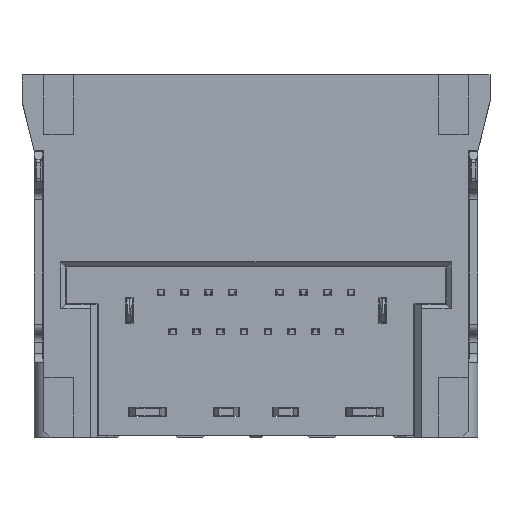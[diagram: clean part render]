
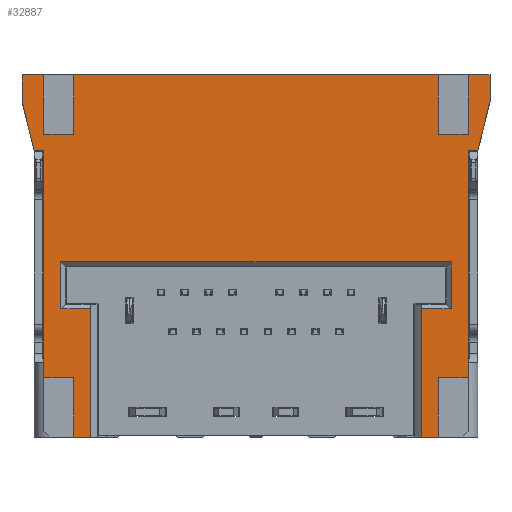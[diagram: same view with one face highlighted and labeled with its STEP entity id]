
A CAD part, left-side view. The second image highlights one B-rep face of the part: STEP entity #32887.
In plain terms, the highlighted planar face has unit normal (-1, 0, 0).
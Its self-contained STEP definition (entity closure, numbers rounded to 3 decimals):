
#22851=CARTESIAN_POINT('',(-9.545,-6.145,-0.9));
#22852=VERTEX_POINT('',#22851);
#22859=CARTESIAN_POINT('',(-9.545,-5.58,-0.9));
#22860=VERTEX_POINT('',#22859);
#22861=CARTESIAN_POINT('',(-9.545,-5.58,-0.9));
#22862=DIRECTION('',(0.0,-1.0,0.0));
#22863=VECTOR('',#22862,1.0);
#22864=LINE('',#22861,#22863);
#22865=EDGE_CURVE('no 34117',#22860,#22852,#22864,.T.);
#23205=CARTESIAN_POINT('',(-9.545,7.88,11.3));
#23206=VERTEX_POINT('',#23205);
#23213=CARTESIAN_POINT('',(-9.545,7.145,11.3));
#23214=VERTEX_POINT('',#23213);
#23215=CARTESIAN_POINT('',(-9.545,7.145,11.3));
#23216=DIRECTION('',(0.0,1.0,0.0));
#23217=VECTOR('',#23216,1.0);
#23218=LINE('',#23215,#23217);
#23219=EDGE_CURVE('no 63947',#23214,#23206,#23218,.T.);
#23237=CARTESIAN_POINT('',(-9.545,6.145,11.3));
#23238=VERTEX_POINT('',#23237);
#23245=CARTESIAN_POINT('',(-9.545,-6.145,11.3));
#23246=VERTEX_POINT('',#23245);
#23247=CARTESIAN_POINT('',(-9.545,-6.145,11.3));
#23248=DIRECTION('',(0.0,1.0,0.0));
#23249=VECTOR('',#23248,1.0);
#23250=LINE('',#23247,#23249);
#23251=EDGE_CURVE('no 35234',#23246,#23238,#23250,.T.);
#23269=CARTESIAN_POINT('',(-9.545,-7.145,11.3));
#23270=VERTEX_POINT('',#23269);
#23277=CARTESIAN_POINT('',(-9.545,-7.88,11.3));
#23278=VERTEX_POINT('',#23277);
#23279=CARTESIAN_POINT('',(-9.545,-7.88,11.3));
#23280=DIRECTION('',(0.0,1.0,0.0));
#23281=VECTOR('',#23280,1.0);
#23282=LINE('',#23279,#23281);
#23283=EDGE_CURVE('no 93567',#23278,#23270,#23282,.T.);
#23945=CARTESIAN_POINT('',(-9.545,5.58,-0.9));
#23946=VERTEX_POINT('',#23945);
#23953=CARTESIAN_POINT('',(-9.545,6.145,-0.9));
#23954=VERTEX_POINT('',#23953);
#23955=CARTESIAN_POINT('',(-9.545,6.145,-0.9));
#23956=DIRECTION('',(0.0,-1.0,0.0));
#23957=VECTOR('',#23956,1.0);
#23958=LINE('',#23955,#23957);
#23959=EDGE_CURVE('no 90424',#23954,#23946,#23958,.T.);
#32670=CARTESIAN_POINT('',(-9.545,-6.145,1.1));
#32671=VERTEX_POINT('',#32670);
#32678=CARTESIAN_POINT('',(-9.545,-6.145,-0.9));
#32679=DIRECTION('',(0.0,0.0,1.0));
#32680=VECTOR('',#32679,1.0);
#32681=LINE('',#32678,#32680);
#32682=EDGE_CURVE('no 48562',#22852,#32671,#32681,.T.);
#32692=CARTESIAN_POINT('',(-9.545,7.88,10.4));
#32693=VERTEX_POINT('',#32692);
#32694=CARTESIAN_POINT('',(-9.545,7.475,8.75));
#32695=VERTEX_POINT('',#32694);
#32696=CARTESIAN_POINT('',(-9.545,7.88,10.4));
#32697=DIRECTION('',(0.0,-0.238,-0.971));
#32698=VECTOR('',#32697,1.0);
#32699=LINE('',#32696,#32698);
#32700=EDGE_CURVE('no 98376',#32693,#32695,#32699,.T.);
#32701=ORIENTED_EDGE('no 76742',*,*,#32700,.T.);
#32702=CARTESIAN_POINT('',(-9.545,7.145,8.75));
#32703=VERTEX_POINT('',#32702);
#32704=CARTESIAN_POINT('',(-9.545,7.475,8.75));
#32705=DIRECTION('',(0.0,-1.0,0.));
#32706=VECTOR('',#32705,1.0);
#32707=LINE('',#32704,#32706);
#32708=EDGE_CURVE('no 49049',#32695,#32703,#32707,.T.);
#32709=ORIENTED_EDGE('no 17575',*,*,#32708,.T.);
#32710=CARTESIAN_POINT('',(-9.545,7.145,1.1));
#32711=VERTEX_POINT('',#32710);
#32712=CARTESIAN_POINT('',(-9.545,7.145,1.1));
#32713=DIRECTION('',(0.0,0.0,1.0));
#32714=VECTOR('',#32713,1.0);
#32715=LINE('',#32712,#32714);
#32716=EDGE_CURVE('no 70815',#32711,#32703,#32715,.T.);
#32717=ORIENTED_EDGE('no 97596',*,*,#32716,.F.);
#32718=CARTESIAN_POINT('',(-9.545,6.145,1.1));
#32719=VERTEX_POINT('',#32718);
#32720=CARTESIAN_POINT('',(-9.545,6.145,1.1));
#32721=DIRECTION('',(0.0,1.0,0.0));
#32722=VECTOR('',#32721,1.0);
#32723=LINE('',#32720,#32722);
#32724=EDGE_CURVE('no 50742',#32719,#32711,#32723,.T.);
#32725=ORIENTED_EDGE('no 36201',*,*,#32724,.F.);
#32726=CARTESIAN_POINT('',(-9.545,6.145,-0.9));
#32727=DIRECTION('',(0.0,0.0,1.0));
#32728=VECTOR('',#32727,1.0);
#32729=LINE('',#32726,#32728);
#32730=EDGE_CURVE('no 48416',#23954,#32719,#32729,.T.);
#32731=ORIENTED_EDGE('no 93547',*,*,#32730,.F.);
#32732=ORIENTED_EDGE('no 89039',*,*,#23959,.T.);
#32733=CARTESIAN_POINT('',(-9.545,5.58,3.43));
#32734=VERTEX_POINT('',#32733);
#32735=CARTESIAN_POINT('',(-9.545,5.58,3.43));
#32736=DIRECTION('',(0.0,0.0,-1.0));
#32737=VECTOR('',#32736,1.0);
#32738=LINE('',#32735,#32737);
#32739=EDGE_CURVE('no 37834',#32734,#23946,#32738,.T.);
#32740=ORIENTED_EDGE('no 16597',*,*,#32739,.F.);
#32741=CARTESIAN_POINT('',(-9.545,6.57,3.43));
#32742=VERTEX_POINT('',#32741);
#32743=CARTESIAN_POINT('',(-9.545,6.57,3.43));
#32744=DIRECTION('',(0.0,-1.0,0.0));
#32745=VECTOR('',#32744,1.0);
#32746=LINE('',#32743,#32745);
#32747=EDGE_CURVE('no 85200',#32742,#32734,#32746,.T.);
#32748=ORIENTED_EDGE('no 57371',*,*,#32747,.F.);
#32749=CARTESIAN_POINT('',(-9.545,6.57,5.0));
#32750=VERTEX_POINT('',#32749);
#32751=CARTESIAN_POINT('',(-9.545,6.57,3.43));
#32752=DIRECTION('',(0.0,0.0,1.0));
#32753=VECTOR('',#32752,1.0);
#32754=LINE('',#32751,#32753);
#32755=EDGE_CURVE('no 37045',#32742,#32750,#32754,.T.);
#32756=ORIENTED_EDGE('no 53152',*,*,#32755,.T.);
#32757=CARTESIAN_POINT('',(-9.545,-6.57,5.0));
#32758=VERTEX_POINT('',#32757);
#32759=CARTESIAN_POINT('',(-9.545,-6.57,5.0));
#32760=DIRECTION('',(0.0,1.0,0.0));
#32761=VECTOR('',#32760,1.0);
#32762=LINE('',#32759,#32761);
#32763=EDGE_CURVE('no 99561',#32758,#32750,#32762,.T.);
#32764=ORIENTED_EDGE('no 77691',*,*,#32763,.F.);
#32765=CARTESIAN_POINT('',(-9.545,-6.57,3.43));
#32766=VERTEX_POINT('',#32765);
#32767=CARTESIAN_POINT('',(-9.545,-6.57,5.0));
#32768=DIRECTION('',(0.0,0.0,-1.0));
#32769=VECTOR('',#32768,1.0);
#32770=LINE('',#32767,#32769);
#32771=EDGE_CURVE('no 65579',#32758,#32766,#32770,.T.);
#32772=ORIENTED_EDGE('no 92016',*,*,#32771,.T.);
#32773=CARTESIAN_POINT('',(-9.545,-5.58,3.43));
#32774=VERTEX_POINT('',#32773);
#32775=CARTESIAN_POINT('',(-9.545,-5.58,3.43));
#32776=DIRECTION('',(0.0,-1.0,0.0));
#32777=VECTOR('',#32776,1.0);
#32778=LINE('',#32775,#32777);
#32779=EDGE_CURVE('no 64008',#32774,#32766,#32778,.T.);
#32780=ORIENTED_EDGE('no 65228',*,*,#32779,.F.);
#32781=CARTESIAN_POINT('',(-9.545,-5.58,3.43));
#32782=DIRECTION('',(0.0,0.0,-1.0));
#32783=VECTOR('',#32782,1.0);
#32784=LINE('',#32781,#32783);
#32785=EDGE_CURVE('no 26719',#32774,#22860,#32784,.T.);
#32786=ORIENTED_EDGE('no 82087',*,*,#32785,.T.);
#32787=ORIENTED_EDGE('no 55408',*,*,#22865,.T.);
#32788=ORIENTED_EDGE('no 3260',*,*,#32682,.T.);
#32789=CARTESIAN_POINT('',(-9.545,-7.145,1.1));
#32790=VERTEX_POINT('',#32789);
#32791=CARTESIAN_POINT('',(-9.545,-7.145,1.1));
#32792=DIRECTION('',(0.0,1.0,0.0));
#32793=VECTOR('',#32792,1.0);
#32794=LINE('',#32791,#32793);
#32795=EDGE_CURVE('no 52297',#32790,#32671,#32794,.T.);
#32796=ORIENTED_EDGE('no 25059',*,*,#32795,.F.);
#32797=CARTESIAN_POINT('',(-9.545,-7.145,8.75));
#32798=VERTEX_POINT('',#32797);
#32799=CARTESIAN_POINT('',(-9.545,-7.145,8.75));
#32800=DIRECTION('',(0.0,0.0,-1.0));
#32801=VECTOR('',#32800,1.0);
#32802=LINE('',#32799,#32801);
#32803=EDGE_CURVE('no 34031',#32798,#32790,#32802,.T.);
#32804=ORIENTED_EDGE('no 82485',*,*,#32803,.F.);
#32805=CARTESIAN_POINT('',(-9.545,-7.475,8.75));
#32806=VERTEX_POINT('',#32805);
#32807=CARTESIAN_POINT('',(-9.545,-7.145,8.75));
#32808=DIRECTION('',(0.0,-1.0,0.));
#32809=VECTOR('',#32808,1.0);
#32810=LINE('',#32807,#32809);
#32811=EDGE_CURVE('no 61409',#32798,#32806,#32810,.T.);
#32812=ORIENTED_EDGE('no 5518',*,*,#32811,.T.);
#32813=CARTESIAN_POINT('',(-9.545,-7.88,10.4));
#32814=VERTEX_POINT('',#32813);
#32815=CARTESIAN_POINT('',(-9.545,-7.475,8.75));
#32816=DIRECTION('',(0.0,-0.238,0.971));
#32817=VECTOR('',#32816,1.0);
#32818=LINE('',#32815,#32817);
#32819=EDGE_CURVE('no 96658',#32806,#32814,#32818,.T.);
#32820=ORIENTED_EDGE('no 6083',*,*,#32819,.T.);
#32821=CARTESIAN_POINT('',(-9.545,-7.88,11.3));
#32822=DIRECTION('',(0.0,0.0,-1.0));
#32823=VECTOR('',#32822,1.0);
#32824=LINE('',#32821,#32823);
#32825=EDGE_CURVE('no 89036',#23278,#32814,#32824,.T.);
#32826=ORIENTED_EDGE('no 102100',*,*,#32825,.F.);
#32827=ORIENTED_EDGE('no 45678',*,*,#23283,.T.);
#32828=CARTESIAN_POINT('',(-9.545,-7.145,9.3));
#32829=VERTEX_POINT('',#32828);
#32830=CARTESIAN_POINT('',(-9.545,-7.145,9.3));
#32831=DIRECTION('',(0.0,0.0,1.0));
#32832=VECTOR('',#32831,1.0);
#32833=LINE('',#32830,#32832);
#32834=EDGE_CURVE('no 70573',#32829,#23270,#32833,.T.);
#32835=ORIENTED_EDGE('no 20973',*,*,#32834,.F.);
#32836=CARTESIAN_POINT('',(-9.545,-6.145,9.3));
#32837=VERTEX_POINT('',#32836);
#32838=CARTESIAN_POINT('',(-9.545,-6.145,9.3));
#32839=DIRECTION('',(0.0,-1.0,0.0));
#32840=VECTOR('',#32839,1.0);
#32841=LINE('',#32838,#32840);
#32842=EDGE_CURVE('no 40940',#32837,#32829,#32841,.T.);
#32843=ORIENTED_EDGE('no 23798',*,*,#32842,.F.);
#32844=CARTESIAN_POINT('',(-9.545,-6.145,11.3));
#32845=DIRECTION('',(0.0,0.0,-1.0));
#32846=VECTOR('',#32845,1.0);
#32847=LINE('',#32844,#32846);
#32848=EDGE_CURVE('no 23535',#23246,#32837,#32847,.T.);
#32849=ORIENTED_EDGE('no 36727',*,*,#32848,.F.);
#32850=ORIENTED_EDGE('no 37617',*,*,#23251,.T.);
#32851=CARTESIAN_POINT('',(-9.545,6.145,9.3));
#32852=VERTEX_POINT('',#32851);
#32853=CARTESIAN_POINT('',(-9.545,6.145,9.3));
#32854=DIRECTION('',(0.0,0.0,1.0));
#32855=VECTOR('',#32854,1.0);
#32856=LINE('',#32853,#32855);
#32857=EDGE_CURVE('no 71712',#32852,#23238,#32856,.T.);
#32858=ORIENTED_EDGE('no 27492',*,*,#32857,.F.);
#32859=CARTESIAN_POINT('',(-9.545,7.145,9.3));
#32860=VERTEX_POINT('',#32859);
#32861=CARTESIAN_POINT('',(-9.545,7.145,9.3));
#32862=DIRECTION('',(0.0,-1.0,0.0));
#32863=VECTOR('',#32862,1.0);
#32864=LINE('',#32861,#32863);
#32865=EDGE_CURVE('no 67573',#32860,#32852,#32864,.T.);
#32866=ORIENTED_EDGE('no 24840',*,*,#32865,.F.);
#32867=CARTESIAN_POINT('',(-9.545,7.145,11.3));
#32868=DIRECTION('',(0.0,0.0,-1.0));
#32869=VECTOR('',#32868,1.0);
#32870=LINE('',#32867,#32869);
#32871=EDGE_CURVE('no 45903',#23214,#32860,#32870,.T.);
#32872=ORIENTED_EDGE('no 40637',*,*,#32871,.F.);
#32873=ORIENTED_EDGE('no 65269',*,*,#23219,.T.);
#32874=CARTESIAN_POINT('',(-9.545,7.88,11.3));
#32875=DIRECTION('',(0.0,-0.0,-1.0));
#32876=VECTOR('',#32875,1.0);
#32877=LINE('',#32874,#32876);
#32878=EDGE_CURVE('no 11269',#23206,#32693,#32877,.T.);
#32879=ORIENTED_EDGE('no 13246',*,*,#32878,.T.);
#32880=EDGE_LOOP('',(
    #32701,#32709,#32717,#32725,#32731,#32732,#32740,#32748,#32756,#32764,
    #32772,#32780,#32786,#32787,#32788,#32796,#32804,#32812,#32820,#32826,
    #32827,#32835,#32843,#32849,#32850,#32858,#32866,#32872,#32873,#32879));
#32881=FACE_OUTER_BOUND('',#32880,.T.);
#32882=CARTESIAN_POINT('',(-9.545,0.,6.55));
#32883=DIRECTION('',(-1.0,0.0,0.0));
#32884=DIRECTION('',(0.0,0.0,1.0));
#32885=AXIS2_PLACEMENT_3D('',#32882,#32883,#32884);
#32886=PLANE('',#32885);
#32887=ADVANCED_FACE('no 104897',(#32881),#32886,.T.);
